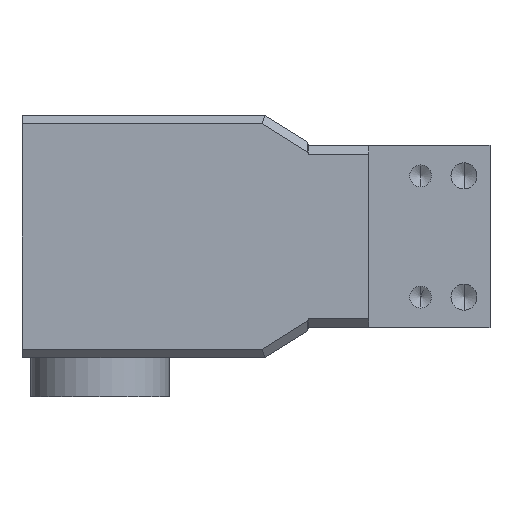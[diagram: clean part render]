
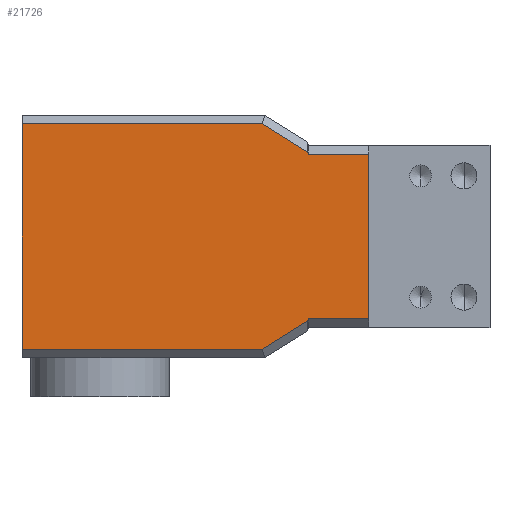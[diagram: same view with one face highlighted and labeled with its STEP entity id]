
A CAD part, left-side view. The second image highlights one B-rep face of the part: STEP entity #21726.
In plain terms, the highlighted planar face has unit normal (-1, 0, 0).
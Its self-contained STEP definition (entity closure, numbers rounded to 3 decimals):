
#85 = DIRECTION ( 'NONE',  ( 0., 0.85, 0.527 ) ) ;
#806 = EDGE_CURVE ( 'NONE', #75413, #44187, #61796, .T. ) ;
#1517 = PLANE ( 'NONE',  #22521 ) ;
#3062 = DIRECTION ( 'NONE',  ( 0., 1., 0. ) ) ;
#4186 = EDGE_CURVE ( 'NONE', #35195, #22196, #72278, .T. ) ;
#4539 = EDGE_CURVE ( 'NONE', #22196, #17608, #76115, .T. ) ;
#5374 = VECTOR ( 'NONE', #36305, 1000. ) ;
#5427 = VECTOR ( 'NONE', #65338, 1000. ) ;
#6228 = EDGE_CURVE ( 'NONE', #17037, #19993, #19102, .T. ) ;
#8704 = CARTESIAN_POINT ( 'NONE',  ( -18., 14., 9.5 ) ) ;
#8865 = FACE_OUTER_BOUND ( 'NONE', #55022, .T. ) ;
#11229 = DIRECTION ( 'NONE',  ( 0., -1., 0. ) ) ;
#11284 = CARTESIAN_POINT ( 'NONE',  ( -18., 21., 9.723 ) ) ;
#11832 = CARTESIAN_POINT ( 'NONE',  ( -18., 27.972, -14.046 ) ) ;
#12838 = VERTEX_POINT ( 'NONE', #21137 ) ;
#13010 = LINE ( 'NONE', #35386, #16817 ) ;
#14289 = DIRECTION ( 'NONE',  ( 0., -1., 0. ) ) ;
#14446 = CARTESIAN_POINT ( 'NONE',  ( -18., 21., -14. ) ) ;
#15952 = DIRECTION ( 'NONE',  ( 1., 0., 0. ) ) ;
#16616 = ORIENTED_EDGE ( 'NONE', *, *, #38447, .F. ) ;
#16817 = VECTOR ( 'NONE', #77422, 1000. ) ;
#17037 = VERTEX_POINT ( 'NONE', #11284 ) ;
#17608 = VERTEX_POINT ( 'NONE', #23718 ) ;
#18013 = CARTESIAN_POINT ( 'NONE',  ( -18., 15.432, 6.271 ) ) ;
#19102 = LINE ( 'NONE', #18013, #60136 ) ;
#19993 = VERTEX_POINT ( 'NONE', #78787 ) ;
#21137 = CARTESIAN_POINT ( 'NONE',  ( -18., 54., 13. ) ) ;
#21726 = ADVANCED_FACE ( 'NONE', ( #8865 ), #1517, .F. ) ;
#22196 = VERTEX_POINT ( 'NONE', #64161 ) ;
#22521 = AXIS2_PLACEMENT_3D ( 'NONE', #58063, #15952, #64255 ) ;
#23466 = VECTOR ( 'NONE', #14289, 1000. ) ;
#23718 = CARTESIAN_POINT ( 'NONE',  ( -18., 21., -9.723 ) ) ;
#23737 = ORIENTED_EDGE ( 'NONE', *, *, #4539, .T. ) ;
#28022 = ORIENTED_EDGE ( 'NONE', *, *, #42441, .T. ) ;
#31449 = DIRECTION ( 'NONE',  ( 0., 0., 1. ) ) ;
#33619 = ORIENTED_EDGE ( 'NONE', *, *, #4186, .T. ) ;
#34223 = ORIENTED_EDGE ( 'NONE', *, *, #57656, .T. ) ;
#35195 = VERTEX_POINT ( 'NONE', #73274 ) ;
#35386 = CARTESIAN_POINT ( 'NONE',  ( -18., 54., -14. ) ) ;
#35736 = VECTOR ( 'NONE', #11229, 1000. ) ;
#36305 = DIRECTION ( 'NONE',  ( 0., -0.85, 0.527 ) ) ;
#38447 = EDGE_CURVE ( 'NONE', #75413, #40422, #71183, .T. ) ;
#39664 = EDGE_CURVE ( 'NONE', #19993, #12838, #70688, .T. ) ;
#40076 = VERTEX_POINT ( 'NONE', #45627 ) ;
#40422 = VERTEX_POINT ( 'NONE', #67324 ) ;
#42441 = EDGE_CURVE ( 'NONE', #17608, #40076, #68071, .T. ) ;
#43059 = VECTOR ( 'NONE', #31449, 1000. ) ;
#43564 = CARTESIAN_POINT ( 'NONE',  ( -18., 54., -13. ) ) ;
#44187 = VERTEX_POINT ( 'NONE', #71248 ) ;
#44281 = LINE ( 'NONE', #78271, #35736 ) ;
#45627 = CARTESIAN_POINT ( 'NONE',  ( -18., 21., -9.5 ) ) ;
#48795 = LINE ( 'NONE', #14446, #63153 ) ;
#49381 = DIRECTION ( 'NONE',  ( 0., 0., -1. ) ) ;
#53822 = EDGE_CURVE ( 'NONE', #35195, #12838, #13010, .T. ) ;
#55022 = EDGE_LOOP ( 'NONE', ( #79043, #34223, #65128, #63386, #63169, #33619, #23737, #28022, #71456, #16616 ) ) ;
#57656 = EDGE_CURVE ( 'NONE', #44187, #17037, #48795, .T. ) ;
#58063 = CARTESIAN_POINT ( 'NONE',  ( -18., 23., -10.5 ) ) ;
#60136 = VECTOR ( 'NONE', #85, 1000. ) ;
#60143 = VECTOR ( 'NONE', #3062, 1000. ) ;
#61694 = CARTESIAN_POINT ( 'NONE',  ( -18., 21., -14. ) ) ;
#61796 = LINE ( 'NONE', #78185, #5427 ) ;
#62324 = EDGE_CURVE ( 'NONE', #40076, #40422, #44281, .T. ) ;
#62480 = DIRECTION ( 'NONE',  ( 0., 0., 1. ) ) ;
#63153 = VECTOR ( 'NONE', #62480, 1000. ) ;
#63169 = ORIENTED_EDGE ( 'NONE', *, *, #53822, .F. ) ;
#63386 = ORIENTED_EDGE ( 'NONE', *, *, #39664, .T. ) ;
#64161 = CARTESIAN_POINT ( 'NONE',  ( -18., 26.285, -13. ) ) ;
#64255 = DIRECTION ( 'NONE',  ( 0., 0., -1. ) ) ;
#65128 = ORIENTED_EDGE ( 'NONE', *, *, #6228, .T. ) ;
#65338 = DIRECTION ( 'NONE',  ( 0., 1., 0. ) ) ;
#67324 = CARTESIAN_POINT ( 'NONE',  ( -18., 14., -9.5 ) ) ;
#68071 = LINE ( 'NONE', #61694, #43059 ) ;
#70688 = LINE ( 'NONE', #77087, #60143 ) ;
#71183 = LINE ( 'NONE', #73787, #74075 ) ;
#71248 = CARTESIAN_POINT ( 'NONE',  ( -18., 21., 9.5 ) ) ;
#71456 = ORIENTED_EDGE ( 'NONE', *, *, #62324, .T. ) ;
#72278 = LINE ( 'NONE', #43564, #23466 ) ;
#73274 = CARTESIAN_POINT ( 'NONE',  ( -18., 54., -13. ) ) ;
#73787 = CARTESIAN_POINT ( 'NONE',  ( -18., 14., 0. ) ) ;
#74075 = VECTOR ( 'NONE', #49381, 1000. ) ;
#75413 = VERTEX_POINT ( 'NONE', #8704 ) ;
#76115 = LINE ( 'NONE', #11832, #5374 ) ;
#77087 = CARTESIAN_POINT ( 'NONE',  ( -18., 54., 13. ) ) ;
#77422 = DIRECTION ( 'NONE',  ( 0., 0., 1. ) ) ;
#78185 = CARTESIAN_POINT ( 'NONE',  ( -18., 23., 9.5 ) ) ;
#78271 = CARTESIAN_POINT ( 'NONE',  ( -18., 23., -9.5 ) ) ;
#78787 = CARTESIAN_POINT ( 'NONE',  ( -18., 26.285, 13. ) ) ;
#79043 = ORIENTED_EDGE ( 'NONE', *, *, #806, .T. ) ;
